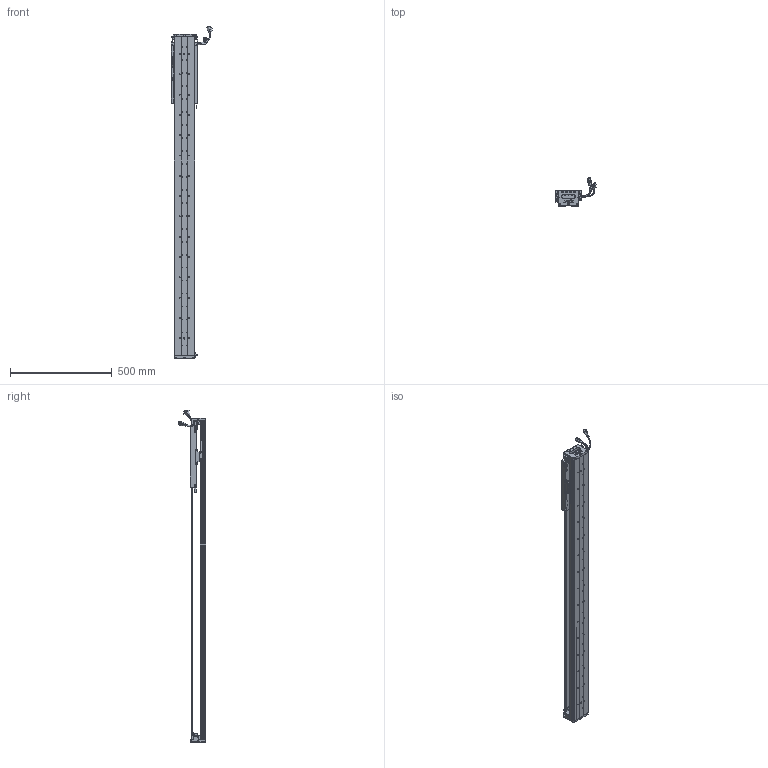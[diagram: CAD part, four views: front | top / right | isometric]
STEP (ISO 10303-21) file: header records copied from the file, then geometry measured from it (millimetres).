
FILE_DESCRIPTION (( 'STEP AP203' ), '1' );
FILE_NAME ('Z4-RY100D-1-L500-B-K.SLDASM_1200.step', '2021-05-17T03:02:38', ( '盈信电脑' ), ( '东莞市道滘镇水果街19号' ), 'SwSTEP 2.0', 'SolidWorks 2016', '' );
FILE_SCHEMA (( 'CONFIG_CONTROL_DESIGN' ));
Length unit declared in the file: millimetre
Products named in the file (36): SHIELDPLATE; Z-RY100D詩湍奻揤裔; LABEL; 080黍杅芛假蚾釱21遴; COVER-Part-1; HARNESS-Part-1; Z-RY100D詩湍狟揤裔; SCREW-M1.7-1; Z-100詩湍傷裔啣; SCREW-M1.7; 榋妏寠巭燃_暯_M2_2; PSLH080_PSLF2; 覜茼ん672; Z4-RY100D-500-倰第菁釱_1200; SCREW-M1.6-3; HOLDER0; Z4-RY100铝滑块（21款）; PBU_SHEET; 140雄赽晤鎢ん堤盄; SCREW-M1.6-1; 100-Z-臏賑輸盄裔(21遴); SCALE; SCREW-M1.6; SEAL; Z4-RY100-L500詩湍90mm遵_1200; Z-RY100D覜茼んえ; HARNESS; LABEL-Part-1; SEAL-Part-1; HARNESS-Part-2; Z4-RY100D-1-L500-B-K.SLDASM_1200; COVER; SCALE-Part-1; SCALE-Part-2; SCREW-M1.6-2; 140蚥薯蝶輸
Assembly tree (43 placements, depth 4):
  Z4-RY100D-1-L500-B-K.SLDASM_1200
    Z4-RY100D-500-倰第菁釱_1200
    Z4-RY100铝滑块（21款）
    PSLH080_PSLF2
      SCALE
        SCALE-Part-1
        SCALE-Part-2
      HARNESS
        HARNESS-Part-1
        HARNESS-Part-2
      LABEL
        LABEL-Part-1
      COVER
        COVER-Part-1
      SEAL
        SEAL-Part-1
      榋妏寠巭燃_暯_M2_2
      SHIELDPLATE
      SCREW-M1.7
      SCREW-M1.7-1
      PBU_SHEET
      SCREW-M1.6
      SCREW-M1.6-1
      SCREW-M1.6-2
      SCREW-M1.6-3
      HOLDER0
    080黍杅芛假蚾釱21遴
    Z-100詩湍傷裔啣  x2
    140蚥薯蝶輸  x2
    覜茼ん672  x3
    Z-RY100D覜茼んえ  x3
    100-Z-臏賑輸盄裔(21遴)
    140雄赽晤鎢ん堤盄
    Z4-RY100-L500詩湍90mm遵_1200
    Z-RY100D詩湍狟揤裔  x2
    Z-RY100D詩湍奻揤裔  x2
Bounding box: 205.83 x 136.11 x 1635.43 mm (x, y, z)
Volume: 3343246.4 mm3; surface area: 1277333.3 mm2
Topology: 38 solids, 38 shells, 2718 faces, 7225 edges, 4584 vertices
Faces by surface type: cylinder 1230, plane 1140, cone 226, torus 69, bspline 53
Entity records: 75449 total; most frequent: CARTESIAN_POINT 15854, DIRECTION 12029, ORIENTED_EDGE 11330, EDGE_CURVE 5665, AXIS2_PLACEMENT_3D 4459, VERTEX_POINT 3652, VECTOR 3111, LINE 3111
